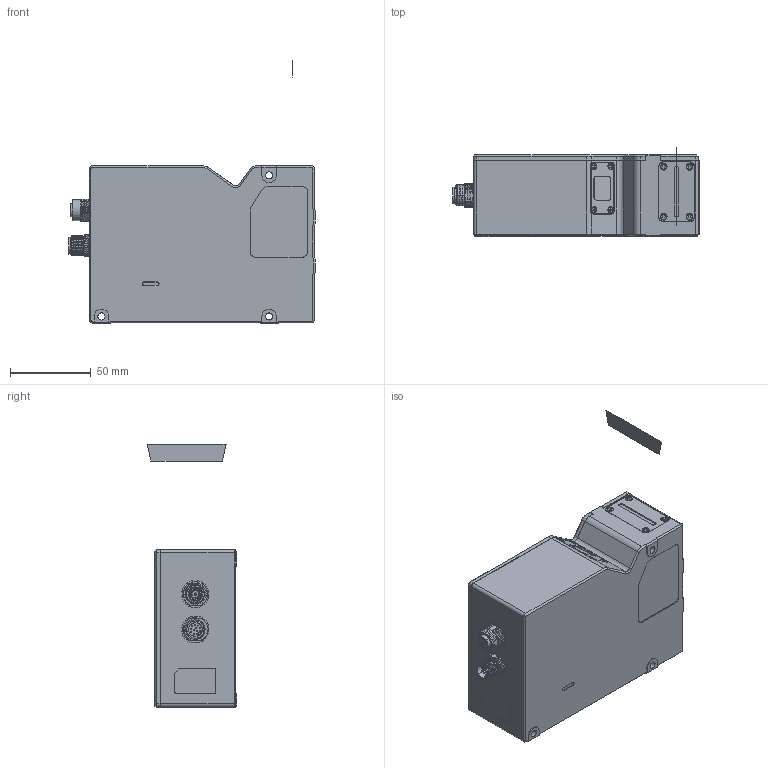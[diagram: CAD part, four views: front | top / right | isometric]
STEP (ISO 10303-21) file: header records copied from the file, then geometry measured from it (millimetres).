
FILE_DESCRIPTION((''),'2;1');
FILE_NAME('MV-DP2061-01P_SPEC','2025-06-21T16:29:10',('shiqiangsheng5'),(''),'CREO PARAMETRIC BY PTC INC, 2020044','CREO PARAMETRIC BY PTC INC, 2020044','');
FILE_SCHEMA(('AUTOMOTIVE_DESIGN { 1 0 10303 214 1 1 1 1 }'));
Products named in the file (1): MV-DP2061-01P_SPEC
Bounding box: 152.7 x 55.4 x 163.4 mm (x, y, z)
Surface area: 57459.1 mm2 (no closed solid volume)
Topology: 0 solids, 51 shells, 725 faces, 2510 edges, 1800 vertices
Faces by surface type: plane 263, cylinder 216, cone 157, bspline 55, torus 34
Entity records: 47481 total; most frequent: CARTESIAN_POINT 26671, ORIENTED_EDGE 4120, DIRECTION 4015, EDGE_CURVE 2472, VERTEX_POINT 1796, AXIS2_PLACEMENT_3D 1437, VECTOR 1141, LINE 1141
